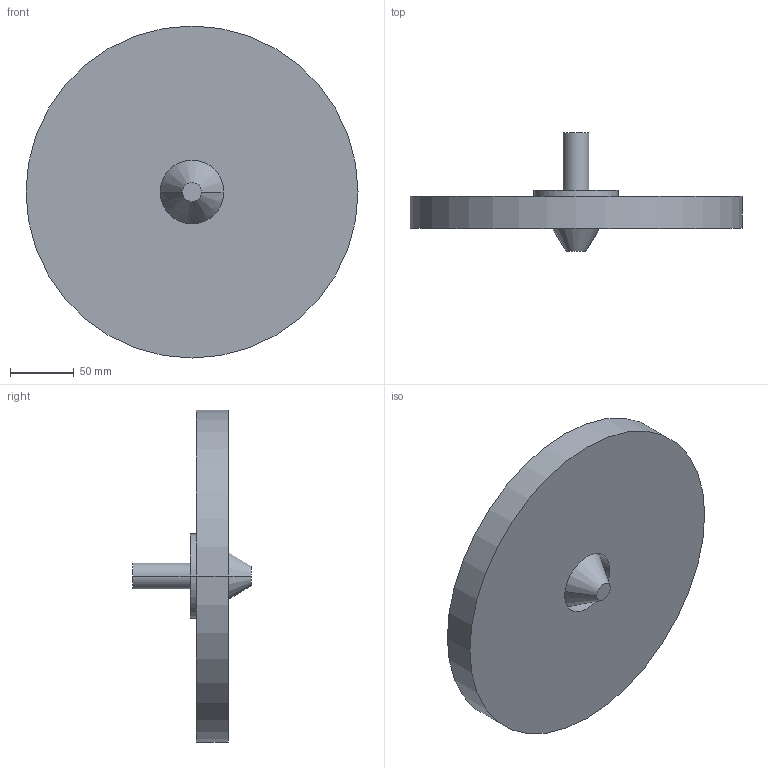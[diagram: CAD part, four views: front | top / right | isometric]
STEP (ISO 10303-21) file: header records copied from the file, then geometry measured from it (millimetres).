
FILE_DESCRIPTION (( 'STEP AP203' ), '1' );
FILE_NAME ('30260 geoeffnet.STEP', '2013-05-06T13:40:45', ( '' ), ( '' ), 'SwSTEP 2.0', 'SolidWorks 2011', '' );
FILE_SCHEMA (( 'CONFIG_CONTROL_DESIGN' ));
Length unit declared in the file: millimetre
Products named in the file (1): 30260 geoeffnet
Bounding box: 260 x 93 x 260 mm (x, y, z)
Volume: 1364404.2 mm3; surface area: 133625.6 mm2
Topology: 1 solids, 1 shells, 15 faces, 28 edges, 18 vertices
Faces by surface type: cylinder 8, plane 5, cone 2
Entity records: 461 total; most frequent: DIRECTION 78, CARTESIAN_POINT 62, ORIENTED_EDGE 56, AXIS2_PLACEMENT_3D 34, EDGE_CURVE 28, VERTEX_POINT 18, CIRCLE 18, EDGE_LOOP 18
